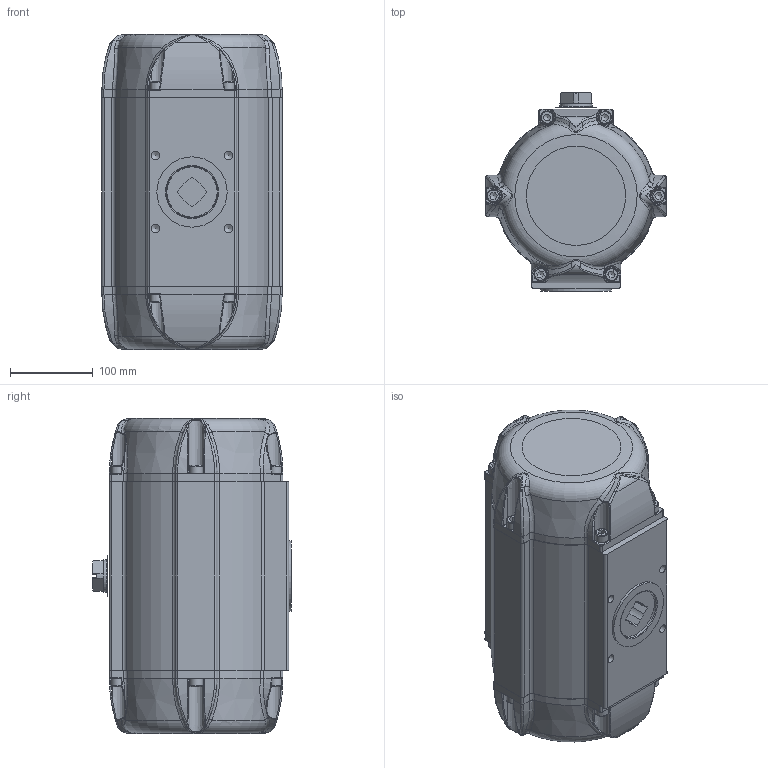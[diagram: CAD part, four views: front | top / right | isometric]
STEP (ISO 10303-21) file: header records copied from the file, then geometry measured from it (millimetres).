
FILE_DESCRIPTION(/* description */ (''),/* implementation_level */ '2;1');
FILE_NAME(/* name */ 'P:\KO\DOKUMENTATION ANTRIEBSPROGRAMM\AKTUELLES ANTRIEBSPROGRAMM\BR03C_SAD_SAF_90°_Chemie\STEP-Dateien\35\SAF 35 BR03C.stp',/* time_stamp */ '2020-12-11T08:18:43+01:00',/* author */ ('mkl'),/* organization */ (''),/* preprocessor_version */ 'ST-DEVELOPER v16.1',/* originating_system */ 'Autodesk Inventor 2016',/* authorisation */ '');
FILE_SCHEMA (('AUTOMOTIVE_DESIGN { 1 0 10303 214 3 1 1 }'));
Length unit declared in the file: millimetre
Products named in the file (1): ENG-051684_Shrinkwrap_1
Bounding box: 218 x 240 x 382 mm (x, y, z)
Surface area: 392662.9 mm2 (no closed solid volume)
Topology: 0 solids, 25 shells, 554 faces, 1975 edges, 1374 vertices
Faces by surface type: cylinder 166, plane 161, bspline 157, cone 49, torus 21
Full cylindrical faces by diameter (mm): 4.134 x8, 4.917 x1, 8.376 x2, 10.106 x4, 11.445 x2, 16 x12, 37 x1, 39.8 x1, 62 x1, 85 x1
Entity records: 27299 total; most frequent: CARTESIAN_POINT 11782, ORIENTED_EDGE 2948, DIRECTION 2788, EDGE_CURVE 1860, VERTEX_POINT 1342, AXIS2_PLACEMENT_3D 1108, EDGE_LOOP 681, CIRCLE 646
